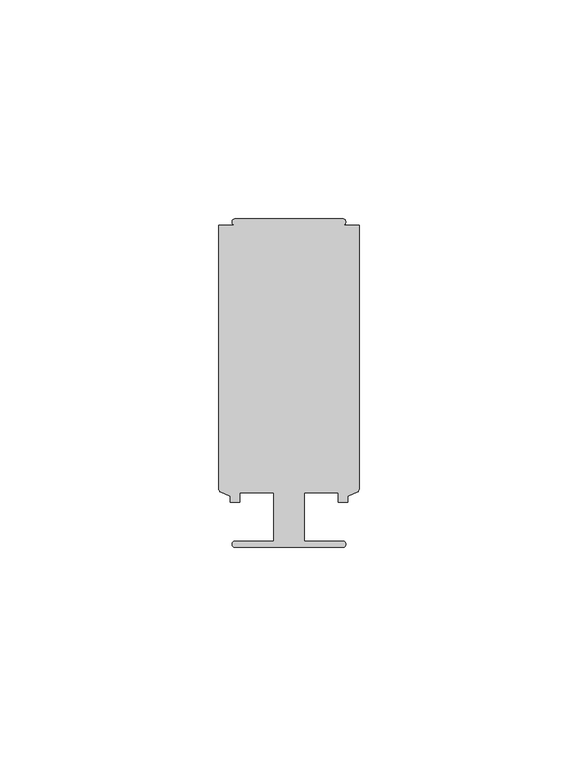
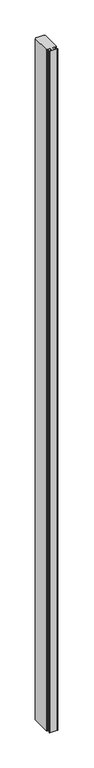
"""IFC4 building model written with IfcOpenShell, lengths in millimetres: member geometry, Прямоугольный импост : 2-AMG-1-Профиль 26Х75 Средний."""

from ifc_helpers import new_model, si_unit, point, frame, frame_2d, origin, place, context, project, spatial, polyline, circle_curve, trimmed, segment, composite_curve, outline, extrude, source, transform, mapped, element, save


def member_191df413(model_context):
    return source(origin(), model_context, "Body", "SweptSolid", [
        extrude(outline(composite_curve([segment(polyline([(12.2976562, -37.5), (-12.3023438, -37.5)]), True, "CONTINUOUS"), segment(trimmed(circle_curve(frame_2d((-12.3023438, -36.8)), 0.7), [point((-12.3023438, -37.5))], [point((-12.3023438, -36.1))], False, "CARTESIAN"), True, "CONTINUOUS"), segment(polyline([(-12.3023438, -36.1), (-3.5023438, -36.1), (-3.5023438, -25.0), (-11.2993767, -25.0), (-11.2993767, -27.25), (-13.4493278, -27.25), (-13.4493278, -25.836597), (-15.5219415, -24.9333875)]), True, "CONTINUOUS"), segment(trimmed(circle_curve(frame_2d((-15.2023438, -24.2)), 0.8), [point((-15.5219415, -24.9333875))], [point((-16.0023438, -24.2))], False, "CARTESIAN"), True, "CONTINUOUS"), segment(polyline([(-16.0023438, -24.2), (-16.0023438, 36.1), (-12.3004766, 36.1)]), True, "CONTINUOUS"), segment(trimmed(circle_curve(frame_2d((-12.3004766, 36.8)), 0.7), [point((-12.3004766, 36.1))], [point((-12.3004766, 37.5))], False, "CARTESIAN"), True, "CONTINUOUS"), segment(polyline([(-12.3004766, 37.5), (12.295789, 37.5)]), True, "CONTINUOUS"), segment(trimmed(circle_curve(frame_2d((12.295789, 36.8)), 0.7), [point((12.295789, 37.5))], [point((12.295789, 36.1))], False, "CARTESIAN"), True, "CONTINUOUS"), segment(polyline([(12.295789, 36.1), (15.9976562, 36.1), (15.9976562, -24.2)]), True, "CONTINUOUS"), segment(trimmed(circle_curve(frame_2d((15.1976562, -24.2)), 0.8), [point((15.9976562, -24.2))], [point((15.5172539, -24.9333875))], False, "CARTESIAN"), True, "CONTINUOUS"), segment(polyline([(15.5172539, -24.9333875), (13.4446403, -25.836597), (13.4446403, -27.25), (11.2193767, -27.25), (11.2193767, -25.0), (3.4976562, -25.0), (3.4976562, -36.1), (12.2976562, -36.1)]), True, "CONTINUOUS"), segment(trimmed(circle_curve(frame_2d((12.2976562, -36.8)), 0.7), [point((12.2976562, -36.1))], [point((12.2976562, -37.5))], False, "CARTESIAN"), True, "CONTINUOUS")], self_intersect=False)), frame((0.0, 0.0, -2282.8976562), z_axis=(0.0, 0.0, 1.0), x_axis=(1.0, 0.0, 0.0)), (0.0, 0.0, 1.0), 2282.8976562),
    ])


if __name__ == "__main__":
    model = new_model("IFC4")
    model_context = context("Model", 3, world=origin())
    ifc_project = project(units=[si_unit("LENGTHUNIT", "METRE", prefix="MILLI")], contexts=[model_context])
    site = spatial("IfcSite", under=ifc_project)
    building = spatial("IfcBuilding", under=site)
    placement = place(None, origin())
    member_shape = member_191df413(model_context)
    element("IfcMember", 1, ObjectType="Прямоугольный импост : 2-AMG-1-Профиль 26Х75 Средний", at=placement, inside=building, context=model_context, shape_type="MappedRepresentation", body=[
        mapped(member_shape, transform((0.0, 0.0, 0.0), x_axis=(1.0, 0.0, 0.0), y_axis=(0.0, 1.0, 0.0), z_axis=(0.0, 0.0, 1.0))),
    ])
    save(model, "model.ifc")
